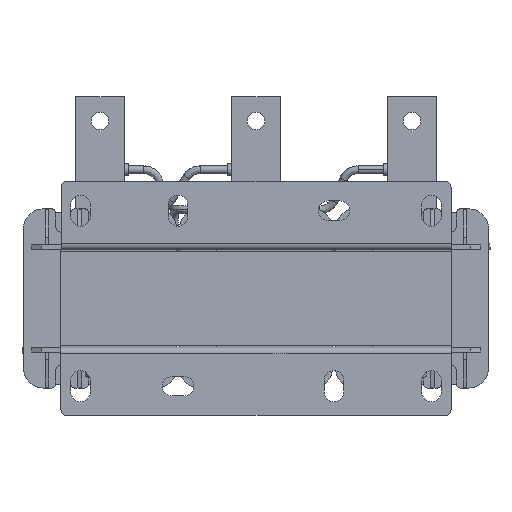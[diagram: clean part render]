
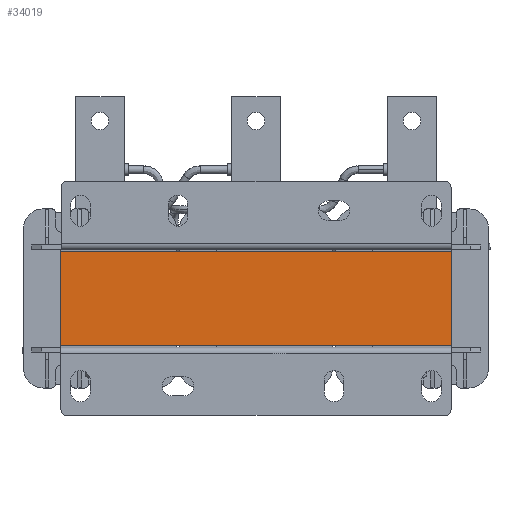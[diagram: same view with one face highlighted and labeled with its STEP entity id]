
A CAD part, front view. The second image highlights one B-rep face of the part: STEP entity #34019.
In plain terms, the highlighted planar face has unit normal (0, -1, 0).
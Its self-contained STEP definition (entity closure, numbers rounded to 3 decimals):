
#191 = CARTESIAN_POINT ( 'NONE',  ( 100., -101., 0. ) ) ;
#212 = VERTEX_POINT ( 'NONE', #37518 ) ;
#257 = EDGE_CURVE ( 'NONE', #577, #6714, #40733, .T. ) ;
#577 = VERTEX_POINT ( 'NONE', #191 ) ;
#4555 = AXIS2_PLACEMENT_3D ( 'NONE', #44484, #6759, #4736 ) ;
#4736 = DIRECTION ( 'NONE',  ( 0., 0., 1. ) ) ;
#4797 = EDGE_LOOP ( 'NONE', ( #6473, #11650, #18205, #14648 ) ) ;
#4968 = EDGE_CURVE ( 'NONE', #212, #577, #11453, .T. ) ;
#6473 = ORIENTED_EDGE ( 'NONE', *, *, #4968, .F. ) ;
#6714 = VERTEX_POINT ( 'NONE', #30875 ) ;
#6759 = DIRECTION ( 'NONE',  ( 0., 1., 0. ) ) ;
#6996 = DIRECTION ( 'NONE',  ( 0., 0., -1. ) ) ;
#8775 = CARTESIAN_POINT ( 'NONE',  ( -100., -101., 48. ) ) ;
#11453 = LINE ( 'NONE', #25863, #21027 ) ;
#11650 = ORIENTED_EDGE ( 'NONE', *, *, #14669, .F. ) ;
#13890 = VERTEX_POINT ( 'NONE', #8775 ) ;
#14648 = ORIENTED_EDGE ( 'NONE', *, *, #257, .F. ) ;
#14669 = EDGE_CURVE ( 'NONE', #13890, #212, #17635, .T. ) ;
#17635 = LINE ( 'NONE', #40225, #31799 ) ;
#17921 = PLANE ( 'NONE',  #4555 ) ;
#18205 = ORIENTED_EDGE ( 'NONE', *, *, #19764, .F. ) ;
#19764 = EDGE_CURVE ( 'NONE', #6714, #13890, #36382, .T. ) ;
#21027 = VECTOR ( 'NONE', #6996, 1000. ) ;
#21807 = VECTOR ( 'NONE', #29189, 1000. ) ;
#25863 = CARTESIAN_POINT ( 'NONE',  ( 100., -101., 48. ) ) ;
#27809 = CARTESIAN_POINT ( 'NONE',  ( -100., -101., 0. ) ) ;
#29189 = DIRECTION ( 'NONE',  ( 0., 0., 1. ) ) ;
#30875 = CARTESIAN_POINT ( 'NONE',  ( -100., -101., 0. ) ) ;
#31799 = VECTOR ( 'NONE', #36992, 1000. ) ;
#32661 = CARTESIAN_POINT ( 'NONE',  ( -100., -101., 48. ) ) ;
#32823 = FACE_OUTER_BOUND ( 'NONE', #4797, .T. ) ;
#34019 = ADVANCED_FACE ( 'NONE', ( #32823 ), #17921, .F. ) ;
#36382 = LINE ( 'NONE', #32661, #21807 ) ;
#36992 = DIRECTION ( 'NONE',  ( 1., 0., 0. ) ) ;
#37518 = CARTESIAN_POINT ( 'NONE',  ( 100., -101., 48. ) ) ;
#38484 = DIRECTION ( 'NONE',  ( -1., 0., 0. ) ) ;
#40225 = CARTESIAN_POINT ( 'NONE',  ( 0., -101., 48. ) ) ;
#40733 = LINE ( 'NONE', #27809, #43011 ) ;
#43011 = VECTOR ( 'NONE', #38484, 1000. ) ;
#44484 = CARTESIAN_POINT ( 'NONE',  ( -100., -101., 48. ) ) ;
